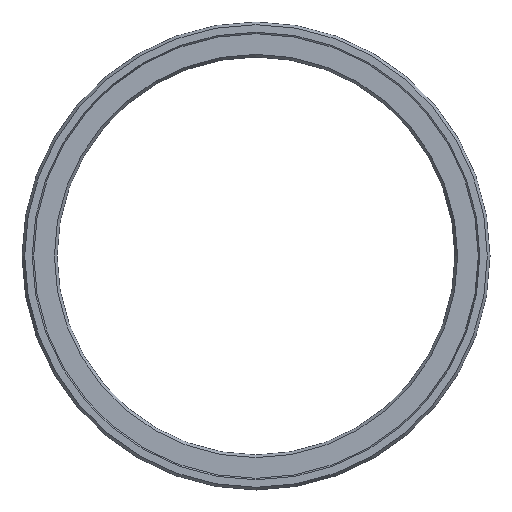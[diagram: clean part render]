
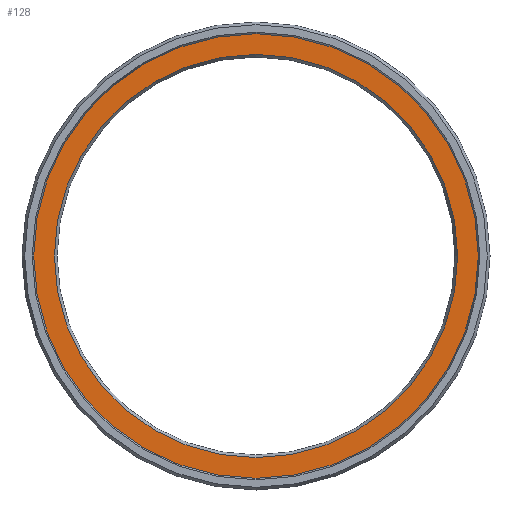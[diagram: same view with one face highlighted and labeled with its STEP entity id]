
A CAD part, left-side view. The second image highlights one B-rep face of the part: STEP entity #128.
In plain terms, the highlighted planar face has unit normal (-1, 0, 0).
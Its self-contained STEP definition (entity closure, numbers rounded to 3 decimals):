
#112=PLANE('',#329);
#128=ADVANCED_FACE('',(#163,#164),#112,.T.);
#163=FACE_BOUND('',#199,.T.);
#164=FACE_BOUND('',#200,.T.);
#199=EDGE_LOOP('',(#235));
#200=EDGE_LOOP('',(#236));
#235=ORIENTED_EDGE('',*,*,#276,.T.);
#236=ORIENTED_EDGE('',*,*,#275,.F.);
#257=VERTEX_POINT('',#454);
#258=VERTEX_POINT('',#457);
#275=EDGE_CURVE('',#257,#257,#293,.T.);
#276=EDGE_CURVE('',#258,#258,#294,.T.);
#293=CIRCLE('',#326,47.5);
#294=CIRCLE('',#328,43.077);
#326=AXIS2_PLACEMENT_3D('',#453,#394,#395);
#328=AXIS2_PLACEMENT_3D('',#456,#398,#399);
#329=AXIS2_PLACEMENT_3D('',#458,#400,#401);
#394=DIRECTION('',(1.,0.,0.));
#395=DIRECTION('',(0.,0.,-1.));
#398=DIRECTION('',(1.,0.,0.));
#399=DIRECTION('',(0.,0.,1.));
#400=DIRECTION('',(-1.,0.,0.));
#401=DIRECTION('',(0.,0.,1.));
#453=CARTESIAN_POINT('',(0.,0.,0.));
#454=CARTESIAN_POINT('',(0.,0.,-47.5));
#456=CARTESIAN_POINT('',(0.,0.,0.));
#457=CARTESIAN_POINT('',(0.,0.,43.077));
#458=CARTESIAN_POINT('',(0.,47.5,0.));
